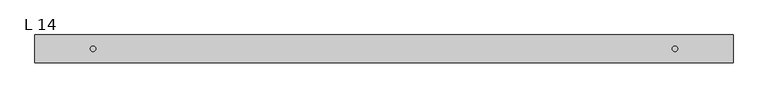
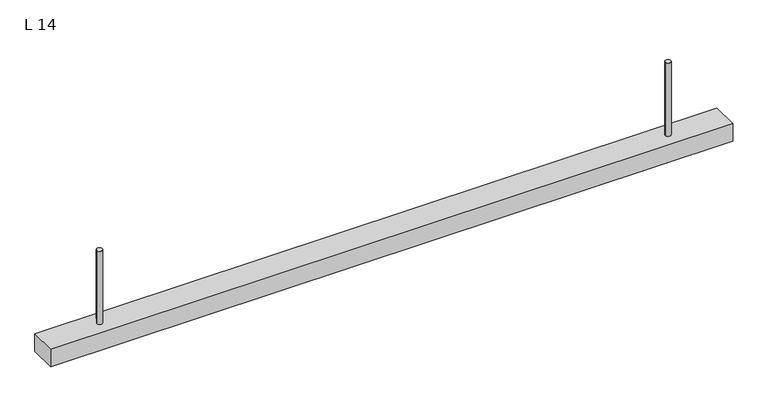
"""IFC4 building model written with IfcOpenShell, lengths in millimetres: light fixture geometry, ZYR_06.02.05 LLuminària Suspesa : L 14."""

from ifc_helpers import new_model, si_unit, point, frame, frame_2d, origin, origin_with_axes, place, context, project, spatial, polyline, circle_curve, trimmed, segment, composite_curve, outline, extrude, source, transform, mapped, element, save


def l_14_e266c19b(model_context):
    return source(origin(), model_context, "Body", "SweptSolid", [
        extrude(outline(polyline([(1260.0, -50.0), (-1260.0, -50.0), (-1260.0, 50.0), (1260.0, 50.0), (1260.0, -50.0)])), origin_with_axes(), (0.0, 0.0, 1.0), 67.0),
        extrude(outline(composite_curve([segment(trimmed(circle_curve(frame_2d((-1050.0, 0.0)), 10.0), [point((-1060.0, 0.0))], [point((-1040.0, 0.0))], False, "CARTESIAN"), True, "CONTINUOUS"), segment(trimmed(circle_curve(frame_2d((-1050.0, 0.0)), 10.0), [point((-1040.0, 0.0))], [point((-1060.0, 0.0))], False, "CARTESIAN"), True, "CONTINUOUS")], self_intersect=False)), frame((0.0, 0.0, 67.0), z_axis=(0.0, 0.0, 1.0), x_axis=(1.0, 0.0, 0.0)), (0.0, 0.0, 1.0), 287.0),
        extrude(outline(composite_curve([segment(trimmed(circle_curve(frame_2d((1050.0, 0.0)), 10.0), [point((1040.0, 0.0))], [point((1060.0, 0.0))], False, "CARTESIAN"), True, "CONTINUOUS"), segment(trimmed(circle_curve(frame_2d((1050.0, 0.0)), 10.0), [point((1060.0, 0.0))], [point((1040.0, 0.0))], False, "CARTESIAN"), True, "CONTINUOUS")], self_intersect=False)), frame((0.0, 0.0, 67.0), z_axis=(0.0, 0.0, 1.0), x_axis=(1.0, 0.0, 0.0)), (0.0, 0.0, 1.0), 287.0),
    ])


if __name__ == "__main__":
    model = new_model("IFC4")
    model_context = context("Model", 3, world=origin())
    ifc_project = project(units=[si_unit("LENGTHUNIT", "METRE", prefix="MILLI")], contexts=[model_context])
    site = spatial("IfcSite", under=ifc_project)
    building = spatial("IfcBuilding", under=site)
    placement = place(None, origin())
    l_14_shape = l_14_e266c19b(model_context)
    element("IfcLightFixture", 1, ObjectType="ZYR_06.02.05 LLuminària Suspesa : L 14", at=placement, inside=building, context=model_context, shape_type="MappedRepresentation", body=[
        mapped(l_14_shape, transform((0.0, 0.0, 0.0), x_axis=(1.0, 0.0, 0.0), y_axis=(0.0, 1.0, 0.0), z_axis=(0.0, 0.0, 1.0))),
    ])
    save(model, "model.ifc")
